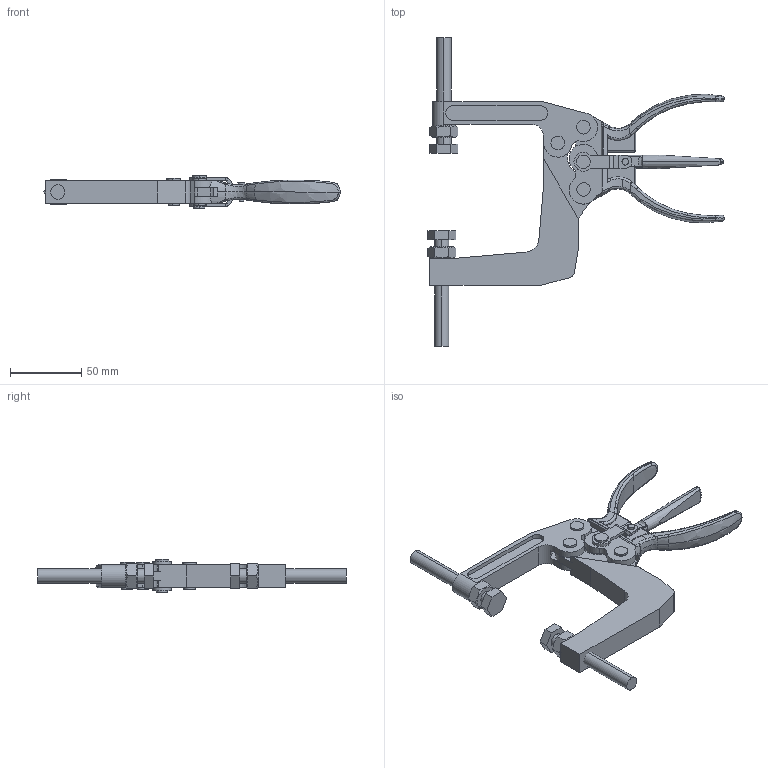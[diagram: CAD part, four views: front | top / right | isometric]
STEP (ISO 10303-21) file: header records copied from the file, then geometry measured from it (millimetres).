
FILE_DESCRIPTION (( 'STEP AP203' ), '1' );
FILE_NAME ('KFA-90-2.STEP', '2014-09-04T18:19:02', ( 'Ricardo' ), ( '' ), 'SwSTEP 2.0', 'SolidWorks 2013', '' );
FILE_SCHEMA (( 'CONFIG_CONTROL_DESIGN' ));
Length unit declared in the file: millimetre
Products named in the file (12): 03.10011; 18.30001; 18.10013; 12.50004; 06.50039; 11.50003; 06.50013; KFA-90-2; 06.50047; 01.30008; 01.30009; 03.30003
Assembly tree (16 placements, depth 2):
  KFA-90-2
    01.30008
    01.30009
    03.30003
    03.10011
    18.30001
    18.10013  x2
    06.50039  x3
    06.50013
    06.50047
    12.50004  x2
    11.50003  x2
Bounding box: 208.31 x 217 x 23.5 mm (x, y, z)
Volume: 141355.4 mm3; surface area: 57534.7 mm2
Topology: 17 solids, 17 shells, 440 faces, 1077 edges, 672 vertices
Faces by surface type: cylinder 182, plane 149, bspline 79, cone 26, sphere 4
Entity records: 16791 total; most frequent: CARTESIAN_POINT 7252, ORIENTED_EDGE 1790, DIRECTION 1572, EDGE_CURVE 895, AXIS2_PLACEMENT_3D 608, VERTEX_POINT 566, EDGE_LOOP 405, FACE_OUTER_BOUND 361
